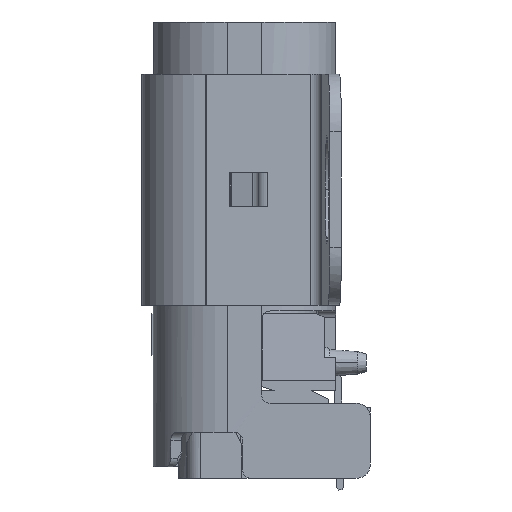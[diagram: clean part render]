
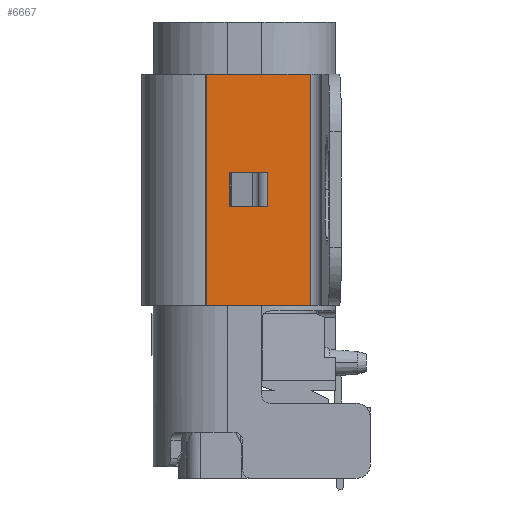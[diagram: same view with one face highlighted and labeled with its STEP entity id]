
A CAD part, left-side view. The second image highlights one B-rep face of the part: STEP entity #6667.
In plain terms, the highlighted planar face has unit normal (-1, -0.018, 0) as drawn and (-1, 0.017, 0) by its records, which use the part's own axes.
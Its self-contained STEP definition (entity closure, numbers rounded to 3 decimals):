
#1238 = DIRECTION ( 'NONE',  ( 0.017, 1., 0. ) ) ;
#1517 = CARTESIAN_POINT ( 'NONE',  ( -77.044, -2.129, -41.993 ) ) ;
#1982 = LINE ( 'NONE', #1517, #29187 ) ;
#2506 = DIRECTION ( 'NONE',  ( 1., -0.017, 0. ) ) ;
#3097 = EDGE_LOOP ( 'NONE', ( #19188, #18441, #38220, #16424 ) ) ;
#3517 = LINE ( 'NONE', #13786, #45539 ) ;
#4202 = EDGE_CURVE ( 'NONE', #24957, #36257, #17098, .T. ) ;
#4405 = LINE ( 'NONE', #22763, #33888 ) ;
#4640 = DIRECTION ( 'NONE',  ( 0., 0., -1. ) ) ;
#4749 = DIRECTION ( 'NONE',  ( -0.017, -1., 0. ) ) ;
#4857 = DIRECTION ( 'NONE',  ( 0., 0., -1. ) ) ;
#5376 = DIRECTION ( 'NONE',  ( 0., 0., -1. ) ) ;
#5399 = VECTOR ( 'NONE', #5376, 1000. ) ;
#5522 = VERTEX_POINT ( 'NONE', #42792 ) ;
#6116 = CARTESIAN_POINT ( 'NONE',  ( -77.057, -2.869, -41.993 ) ) ;
#6184 = EDGE_CURVE ( 'NONE', #20852, #31080, #27347, .T. ) ;
#6667 = ADVANCED_FACE ( 'NONE', ( #35586, #38935 ), #21330, .F. ) ;
#8289 = EDGE_CURVE ( 'NONE', #5522, #11971, #1982, .T. ) ;
#9087 = CARTESIAN_POINT ( 'NONE',  ( -77.032, -1.469, -43.693 ) ) ;
#9684 = CARTESIAN_POINT ( 'NONE',  ( -77.025, -1.069, -45.993 ) ) ;
#10490 = VECTOR ( 'NONE', #4749, 1000. ) ;
#11685 = LINE ( 'NONE', #37385, #10490 ) ;
#11971 = VERTEX_POINT ( 'NONE', #35112 ) ;
#13786 = CARTESIAN_POINT ( 'NONE',  ( -77.025, -1.069, -41.993 ) ) ;
#16424 = ORIENTED_EDGE ( 'NONE', *, *, #20855, .F. ) ;
#17057 = DIRECTION ( 'NONE',  ( 0., 0., -1. ) ) ;
#17098 = LINE ( 'NONE', #9684, #21324 ) ;
#17686 = AXIS2_PLACEMENT_3D ( 'NONE', #28687, #2506, #17057 ) ;
#17753 = VERTEX_POINT ( 'NONE', #6116 ) ;
#18441 = ORIENTED_EDGE ( 'NONE', *, *, #39571, .F. ) ;
#19188 = ORIENTED_EDGE ( 'NONE', *, *, #8289, .T. ) ;
#19437 = EDGE_LOOP ( 'NONE', ( #35095, #36608, #42238, #20895 ) ) ;
#20852 = VERTEX_POINT ( 'NONE', #9087 ) ;
#20855 = EDGE_CURVE ( 'NONE', #5522, #20852, #33623, .T. ) ;
#20895 = ORIENTED_EDGE ( 'NONE', *, *, #37317, .T. ) ;
#21324 = VECTOR ( 'NONE', #21601, 1000. ) ;
#21330 = PLANE ( 'NONE',  #17686 ) ;
#21601 = DIRECTION ( 'NONE',  ( -0.017, -1., 0. ) ) ;
#22197 = VECTOR ( 'NONE', #41857, 1000. ) ;
#22763 = CARTESIAN_POINT ( 'NONE',  ( -77.025, -1.069, -41.993 ) ) ;
#24630 = CARTESIAN_POINT ( 'NONE',  ( -77.057, -2.869, -45.993 ) ) ;
#24957 = VERTEX_POINT ( 'NONE', #31213 ) ;
#25459 = EDGE_CURVE ( 'NONE', #46338, #17753, #3517, .T. ) ;
#27187 = CARTESIAN_POINT ( 'NONE',  ( -77.032, -1.469, -43.693 ) ) ;
#27347 = LINE ( 'NONE', #27820, #22197 ) ;
#27820 = CARTESIAN_POINT ( 'NONE',  ( -77.032, -1.469, -44.293 ) ) ;
#28687 = CARTESIAN_POINT ( 'NONE',  ( -77.025, -1.069, -41.993 ) ) ;
#29187 = VECTOR ( 'NONE', #4857, 1000. ) ;
#31080 = VERTEX_POINT ( 'NONE', #34396 ) ;
#31213 = CARTESIAN_POINT ( 'NONE',  ( -77.025, -1.069, -45.993 ) ) ;
#32093 = DIRECTION ( 'NONE',  ( -0.017, -1., 0. ) ) ;
#32613 = EDGE_CURVE ( 'NONE', #17753, #36257, #38948, .T. ) ;
#33623 = LINE ( 'NONE', #27187, #37775 ) ;
#33888 = VECTOR ( 'NONE', #4640, 1000. ) ;
#34396 = CARTESIAN_POINT ( 'NONE',  ( -77.032, -1.469, -44.293 ) ) ;
#35095 = ORIENTED_EDGE ( 'NONE', *, *, #4202, .T. ) ;
#35112 = CARTESIAN_POINT ( 'NONE',  ( -77.044, -2.129, -44.293 ) ) ;
#35586 = FACE_BOUND ( 'NONE', #3097, .T. ) ;
#36257 = VERTEX_POINT ( 'NONE', #24630 ) ;
#36608 = ORIENTED_EDGE ( 'NONE', *, *, #32613, .F. ) ;
#37317 = EDGE_CURVE ( 'NONE', #46338, #24957, #4405, .T. ) ;
#37385 = CARTESIAN_POINT ( 'NONE',  ( -77.032, -1.469, -44.293 ) ) ;
#37775 = VECTOR ( 'NONE', #1238, 1000. ) ;
#38220 = ORIENTED_EDGE ( 'NONE', *, *, #6184, .F. ) ;
#38935 = FACE_OUTER_BOUND ( 'NONE', #19437, .T. ) ;
#38948 = LINE ( 'NONE', #41814, #5399 ) ;
#39571 = EDGE_CURVE ( 'NONE', #31080, #11971, #11685, .T. ) ;
#41814 = CARTESIAN_POINT ( 'NONE',  ( -77.057, -2.869, -41.993 ) ) ;
#41857 = DIRECTION ( 'NONE',  ( 0., 0., -1. ) ) ;
#42238 = ORIENTED_EDGE ( 'NONE', *, *, #25459, .F. ) ;
#42513 = CARTESIAN_POINT ( 'NONE',  ( -77.025, -1.069, -41.993 ) ) ;
#42792 = CARTESIAN_POINT ( 'NONE',  ( -77.044, -2.129, -43.693 ) ) ;
#45539 = VECTOR ( 'NONE', #32093, 1000. ) ;
#46338 = VERTEX_POINT ( 'NONE', #42513 ) ;
